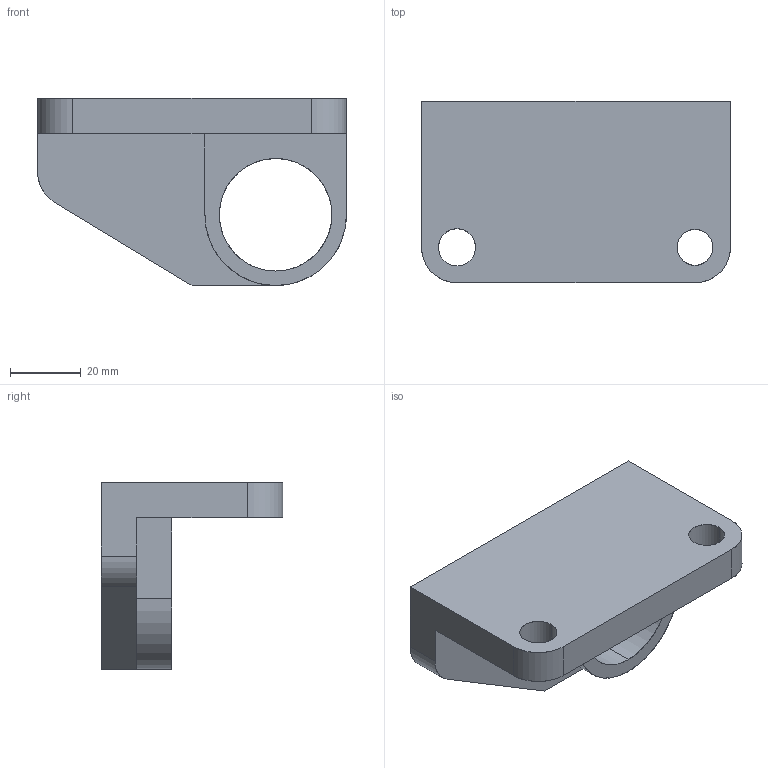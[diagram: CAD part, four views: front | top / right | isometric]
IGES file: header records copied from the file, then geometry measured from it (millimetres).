
Start section: SolidWorks IGES file using analytic representation for surfaces
Global section: file name: C:\Documents and Settings\Pc\Escritorio\Modelos 3D\Capítulo 5 (Estudio diseño)\OTROS\ejemplo estatico.IGS; native system: SolidWorks 2010; preprocessor: SolidWorks 2010; author: Pc; date: 100623.114123; units: millimetre
Bounding box: 87.31 x 51.31 x 52.89 mm (x, y, z)
Surface area: 19694.5 mm2 (no closed solid volume)
Topology: 0 solids, 0 shells, 22 faces, 464 edges, 464 vertices
Faces by surface type: revolution 11, bspline 11
